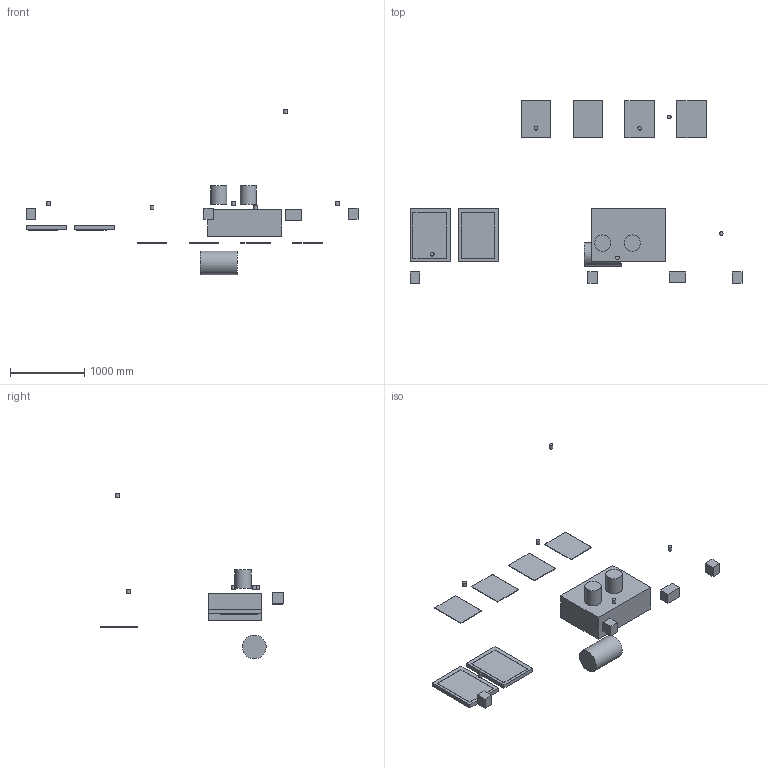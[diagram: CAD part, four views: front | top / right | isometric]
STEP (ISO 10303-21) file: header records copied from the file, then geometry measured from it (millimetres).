
FILE_DESCRIPTION(('FreeCAD Model'),'2;1');
FILE_NAME('Open CASCADE Shape Model','2026-10-28T17:35:04',('Author'),( ''),'Open CASCADE STEP processor 7.8','FreeCAD','Unknown');
FILE_SCHEMA(('AUTOMOTIVE_DESIGN { 1 0 10303 214 1 1 1 1 }'));
Length unit declared in the file: millimetre
Products named in the file (25): Haven1_Public_Reference_R1; Avionics cold plate 1; Avionics cold plate 2; Thermal pump tray assembly envelope; Representative pump cartridge 1; Representative pump cartridge 2; Candidate thermostatic heater patch 1; Candidate thermostatic heater patch 2; Candidate thermostatic heater patch 3; Candidate thermostatic heater patch 4; Candidate thermostatic heater patch 5; Candidate thermostatic heater patch 6; Candidate temperature sensor 1; Candidate temperature sensor 2; Candidate temperature sensor 3; Candidate temperature sensor 4; Candidate temperature sensor 5; Candidate temperature sensor 6; Coolant reservoir / accumulator envelope; Candidate coolant control / isolation valve 1; Candidate coolant control / isolation valve 2; Candidate coolant control / isolation valve 3; Candidate flow / pressure sensor envelope; Candidate equipment-to-coldplate interface 1; Candidate equipment-to-coldplate interface 2
Assembly tree (24 placements, depth 2):
  Haven1_Public_Reference_R1
    Avionics cold plate 1
    Avionics cold plate 2
    Thermal pump tray assembly envelope
    Representative pump cartridge 1
    Representative pump cartridge 2
    Candidate thermostatic heater patch 1
    Candidate thermostatic heater patch 2
    Candidate thermostatic heater patch 3
    Candidate thermostatic heater patch 4
    Candidate thermostatic heater patch 5
    Candidate thermostatic heater patch 6
    Candidate temperature sensor 1
    Candidate temperature sensor 2
    Candidate temperature sensor 3
    Candidate temperature sensor 4
    Candidate temperature sensor 5
    Candidate temperature sensor 6
    Coolant reservoir / accumulator envelope
    Candidate coolant control / isolation valve 1
    Candidate coolant control / isolation valve 2
    Candidate coolant control / isolation valve 3
    Candidate flow / pressure sensor envelope
    Candidate equipment-to-coldplate interface 1
    Candidate equipment-to-coldplate interface 2
Bounding box: 4480 x 2460 x 2235 mm (x, y, z)
Volume: 387295975 mm3; surface area: 9932170.9 mm2
Topology: 24 solids, 24 shells, 117 faces, 207 edges, 138 vertices
Faces by surface type: plane 108, cylinder 9
Full cylindrical faces by diameter (mm): 50 x6, 220 x2, 320 x1
Entity records: 3175 total; most frequent: DIRECTION 509, CARTESIAN_POINT 487, ORIENTED_EDGE 414, EDGE_CURVE 207, LINE 189, VECTOR 189, AXIS2_PLACEMENT_3D 160, VERTEX_POINT 138
